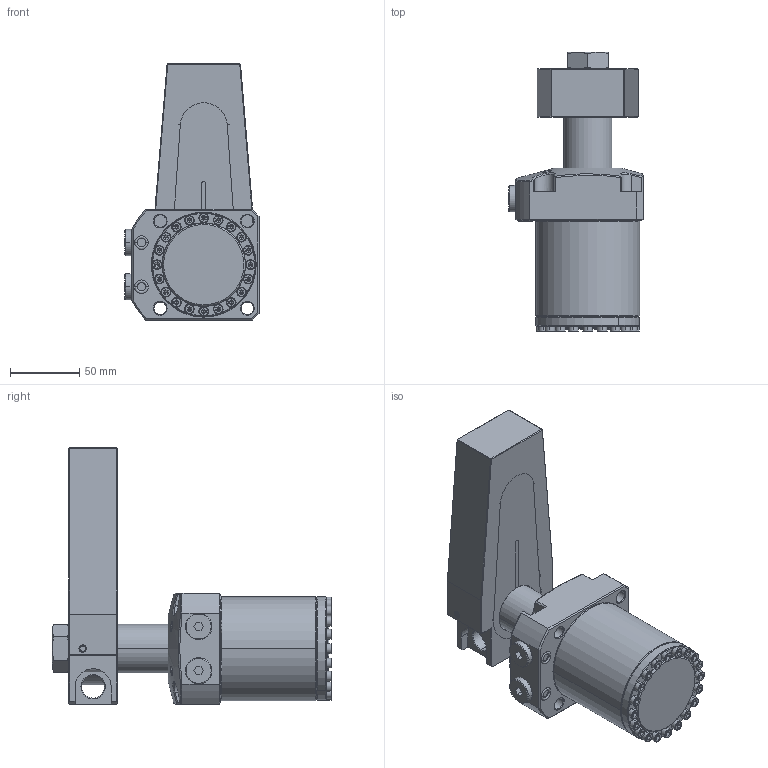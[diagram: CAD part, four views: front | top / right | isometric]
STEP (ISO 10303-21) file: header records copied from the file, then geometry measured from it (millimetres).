
FILE_DESCRIPTION((''),'2;1');
FILE_NAME('SIMP_GENERIC_SWING_CYD_75_ASM','2023-04-30T10:52:52',('Design 2'),(''),'CREO PARAMETRIC BY PTC INC, 2020053','CREO PARAMETRIC BY PTC INC, 2020053','');
FILE_SCHEMA(('CONFIG_CONTROL_DESIGN'));
Length unit declared in the file: millimetre
Products named in the file (16): BODY__; BODY_TOP_FLG___ASM; PISTON__; PISTON_ASM___ASM; SWINGER_ARM__; SWINGER_ARM_ASM___ASM; CLAMP__; HEXAGON_NUT__; CLAMP_2ND_TYPE__; 1____; 2____; HALDER_SEALING-PLUG-228800_SS_ASM; STATIC-O-RING-10X2SS; ISHCS04X10; G-1-4_CLOSE_PLUG; SIMP_GENERIC_SWING_CYD_75_ASM
Assembly tree (37 placements, depth 3):
  SIMP_GENERIC_SWING_CYD_75_ASM
    BODY_TOP_FLG___ASM
      BODY__
    PISTON_ASM___ASM
      PISTON__
    SWINGER_ARM_ASM___ASM
      SWINGER_ARM__
    CLAMP__
    HEXAGON_NUT__
    CLAMP_2ND_TYPE__
    HALDER_SEALING-PLUG-228800_SS_ASM  x2
      1____
      2____
    STATIC-O-RING-10X2SS  x2
    ISHCS04X10  x20
    G-1-4_CLOSE_PLUG  x2
Bounding box: 97 x 201.9 x 185 mm (x, y, z)
Volume: 1138310.8 mm3; surface area: 177357.5 mm2
Topology: 34 solids, 34 shells, 1469 faces, 3352 edges, 1967 vertices
Faces by surface type: cylinder 482, plane 460, cone 372, bspline 85, torus 64, sphere 6
Entity records: 39191 total; most frequent: CARTESIAN_POINT 20770, ORIENTED_EDGE 3840, DIRECTION 3574, EDGE_CURVE 1920, AXIS2_PLACEMENT_3D 1354, VERTEX_POINT 1175, EDGE_LOOP 899, VECTOR 866
